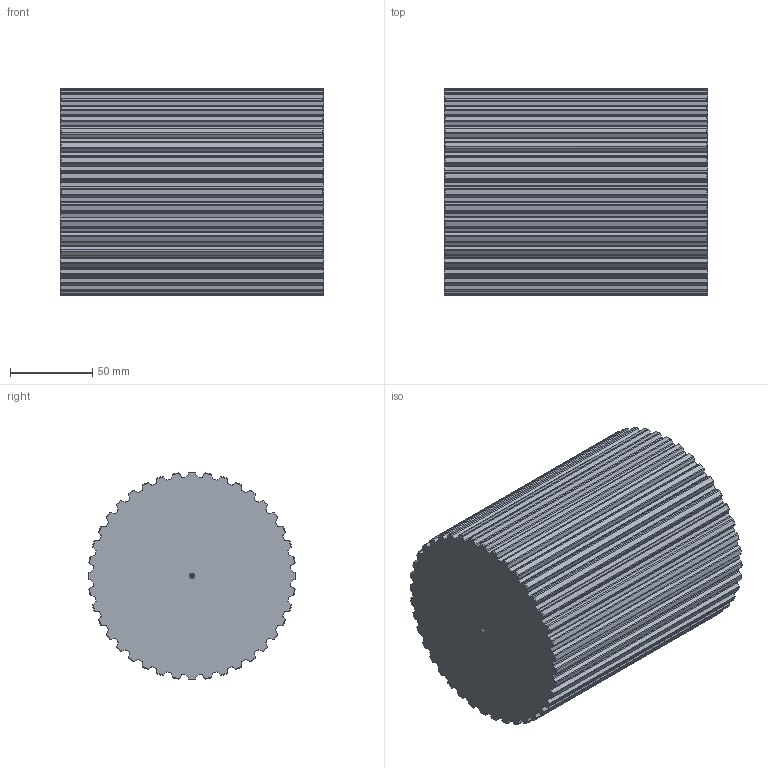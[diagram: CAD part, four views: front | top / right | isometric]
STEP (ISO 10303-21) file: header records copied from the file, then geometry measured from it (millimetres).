
FILE_DESCRIPTION(('STEP AP214'),'1');
FILE_NAME('barat_40.stp','2018-08-10T14:08:17',('TraceParts'),('TraceParts S.A.'),'Spatial InterOp 3D',' ',' ');
FILE_SCHEMA(('automotive_design'));
Length unit declared in the file: millimetre
Products named in the file (1): barat_40
Bounding box: 160 x 126.32 x 126.32 mm (x, y, z)
Volume: 1919989.7 mm3; surface area: 106436.3 mm2
Topology: 1 solids, 1 shells, 418 faces, 1240 edges, 822 vertices
Faces by surface type: cylinder 244, cone 92, plane 82
Entity records: 15047 total; most frequent: CARTESIAN_POINT 4237, ORIENTED_EDGE 2472, DIRECTION 2174, EDGE_CURVE 1236, AXIS2_PLACEMENT_3D 839, VERTEX_POINT 822, LINE 496, VECTOR 496
